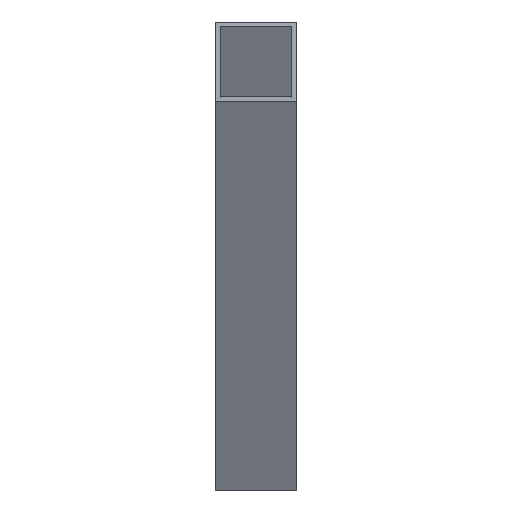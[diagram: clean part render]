
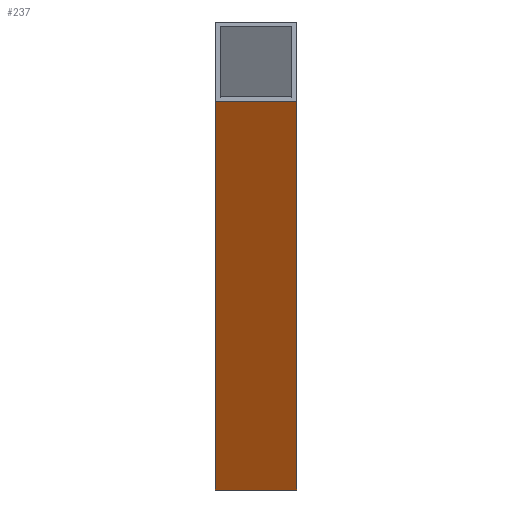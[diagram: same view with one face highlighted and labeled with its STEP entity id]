
A CAD part, top view. The second image highlights one B-rep face of the part: STEP entity #237.
In plain terms, the highlighted planar face has unit normal (0, -0.985, 0.174).
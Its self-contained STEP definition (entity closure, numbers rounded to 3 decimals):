
#37=CARTESIAN_POINT('',(2569.,36.015,239.681));
#38=VERTEX_POINT('',#37);
#45=CARTESIAN_POINT('',(2519.0,36.015,239.681));
#46=VERTEX_POINT('',#45);
#47=CARTESIAN_POINT('',(2519.0,36.015,239.681));
#48=DIRECTION('',(1.0,0.0,0.0));
#49=VECTOR('',#48,1.);
#50=LINE('',#47,#49);
#51=EDGE_CURVE('',#46,#38,#50,.T.);
#109=CARTESIAN_POINT('',(2569.,271.829,1577.05));
#110=VERTEX_POINT('',#109);
#117=CARTESIAN_POINT('',(2569.0,36.015,239.681));
#118=DIRECTION('',(0.,0.174,0.985));
#119=VECTOR('',#118,1.);
#120=LINE('',#117,#119);
#121=EDGE_CURVE('',#38,#110,#120,.T.);
#140=CARTESIAN_POINT('',(2519.0,271.829,1577.05));
#141=VERTEX_POINT('',#140);
#148=CARTESIAN_POINT('',(2569.0,271.829,1577.05));
#149=DIRECTION('',(-1.0,0.,0.));
#150=VECTOR('',#149,1.);
#151=LINE('',#148,#150);
#152=EDGE_CURVE('',#110,#141,#151,.T.);
#204=CARTESIAN_POINT('',(2519.0,271.829,1577.05));
#205=DIRECTION('',(0.,-0.174,-0.985));
#206=VECTOR('',#205,1.);
#207=LINE('',#204,#206);
#208=EDGE_CURVE('',#141,#46,#207,.T.);
#226=CARTESIAN_POINT('',(2519.0,36.015,239.681));
#227=DIRECTION('',(0.0,-0.985,0.174));
#228=DIRECTION('',(1.0,0.0,0.0));
#229=AXIS2_PLACEMENT_3D('',#226,#227,#228);
#230=PLANE('',#229);
#231=ORIENTED_EDGE('',*,*,#51,.T.);
#232=ORIENTED_EDGE('',*,*,#121,.T.);
#233=ORIENTED_EDGE('',*,*,#152,.T.);
#234=ORIENTED_EDGE('',*,*,#208,.T.);
#235=EDGE_LOOP('',(#231,#232,#233,#234));
#236=FACE_BOUND('',#235,.T.);
#237=ADVANCED_FACE('',(#236),#230,.T.);
